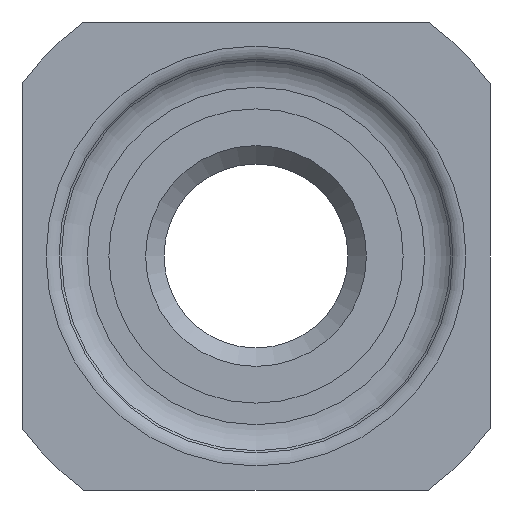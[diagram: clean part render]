
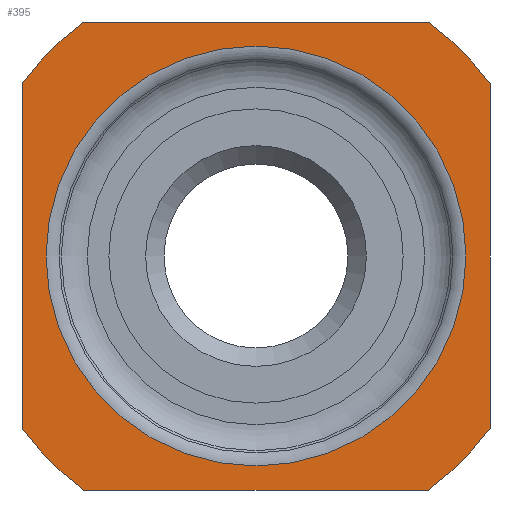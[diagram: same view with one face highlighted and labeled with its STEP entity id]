
A CAD part, front view. The second image highlights one B-rep face of the part: STEP entity #395.
In plain terms, the highlighted planar face has unit normal (0, -1, 0).
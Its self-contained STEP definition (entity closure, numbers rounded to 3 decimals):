
#28=FACE_BOUND('',#82,.T.);
#32=PLANE('',#462);
#54=FACE_OUTER_BOUND('',#81,.T.);
#81=EDGE_LOOP('',(#306,#307,#308,#309,#310,#311,#312,#313));
#82=EDGE_LOOP('',(#314));
#104=LINE('',#682,#122);
#105=LINE('',#686,#123);
#106=LINE('',#690,#124);
#107=LINE('',#693,#125);
#122=VECTOR('',#560,10.);
#123=VECTOR('',#563,10.);
#124=VECTOR('',#566,10.);
#125=VECTOR('',#569,10.);
#148=CIRCLE('',#456,5.707);
#153=CIRCLE('',#463,7.9);
#154=CIRCLE('',#464,7.9);
#155=CIRCLE('',#465,7.9);
#156=CIRCLE('',#466,7.9);
#179=VERTEX_POINT('',#666);
#183=VERTEX_POINT('',#678);
#184=VERTEX_POINT('',#679);
#185=VERTEX_POINT('',#681);
#186=VERTEX_POINT('',#683);
#187=VERTEX_POINT('',#685);
#188=VERTEX_POINT('',#687);
#189=VERTEX_POINT('',#689);
#190=VERTEX_POINT('',#691);
#222=EDGE_CURVE('',#179,#179,#148,.T.);
#228=EDGE_CURVE('',#183,#184,#153,.T.);
#229=EDGE_CURVE('',#184,#185,#104,.T.);
#230=EDGE_CURVE('',#185,#186,#154,.T.);
#231=EDGE_CURVE('',#186,#187,#105,.T.);
#232=EDGE_CURVE('',#187,#188,#155,.T.);
#233=EDGE_CURVE('',#188,#189,#106,.T.);
#234=EDGE_CURVE('',#189,#190,#156,.T.);
#235=EDGE_CURVE('',#190,#183,#107,.T.);
#306=ORIENTED_EDGE('',*,*,#228,.T.);
#307=ORIENTED_EDGE('',*,*,#229,.T.);
#308=ORIENTED_EDGE('',*,*,#230,.T.);
#309=ORIENTED_EDGE('',*,*,#231,.T.);
#310=ORIENTED_EDGE('',*,*,#232,.T.);
#311=ORIENTED_EDGE('',*,*,#233,.T.);
#312=ORIENTED_EDGE('',*,*,#234,.T.);
#313=ORIENTED_EDGE('',*,*,#235,.T.);
#314=ORIENTED_EDGE('',*,*,#222,.F.);
#395=ADVANCED_FACE('',(#54,#28),#32,.T.);
#456=AXIS2_PLACEMENT_3D('',#667,#543,#544);
#462=AXIS2_PLACEMENT_3D('',#677,#556,#557);
#463=AXIS2_PLACEMENT_3D('',#680,#558,#559);
#464=AXIS2_PLACEMENT_3D('',#684,#561,#562);
#465=AXIS2_PLACEMENT_3D('',#688,#564,#565);
#466=AXIS2_PLACEMENT_3D('',#692,#567,#568);
#543=DIRECTION('center_axis',(0.,-1.,0.));
#544=DIRECTION('ref_axis',(0.,0.,-1.));
#556=DIRECTION('center_axis',(0.,-1.,0.));
#557=DIRECTION('ref_axis',(0.,0.,-1.));
#558=DIRECTION('center_axis',(0.,-1.,0.));
#559=DIRECTION('ref_axis',(0.,0.,1.));
#560=DIRECTION('',(0.,0.,-1.));
#561=DIRECTION('center_axis',(0.,-1.,0.));
#562=DIRECTION('ref_axis',(0.,0.,1.));
#563=DIRECTION('',(1.,0.,0.));
#564=DIRECTION('center_axis',(0.,-1.,0.));
#565=DIRECTION('ref_axis',(0.,0.,1.));
#566=DIRECTION('',(0.,0.,1.));
#567=DIRECTION('center_axis',(0.,-1.,0.));
#568=DIRECTION('ref_axis',(0.,0.,1.));
#569=DIRECTION('',(-1.,0.,0.));
#666=CARTESIAN_POINT('',(0.,-5.,-5.707));
#667=CARTESIAN_POINT('Origin',(0.,-5.,0.));
#677=CARTESIAN_POINT('Origin',(0.,-5.,0.));
#678=CARTESIAN_POINT('',(-4.686,-5.,6.36));
#679=CARTESIAN_POINT('',(-6.36,-5.,4.686));
#680=CARTESIAN_POINT('Origin',(0.,-5.,0.));
#681=CARTESIAN_POINT('',(-6.36,-5.,-4.686));
#682=CARTESIAN_POINT('',(-6.36,-5.,-6.36));
#683=CARTESIAN_POINT('',(-4.686,-5.,-6.36));
#684=CARTESIAN_POINT('Origin',(0.,-5.,0.));
#685=CARTESIAN_POINT('',(4.686,-5.,-6.36));
#686=CARTESIAN_POINT('',(6.36,-5.,-6.36));
#687=CARTESIAN_POINT('',(6.36,-5.,-4.686));
#688=CARTESIAN_POINT('Origin',(0.,-5.,0.));
#689=CARTESIAN_POINT('',(6.36,-5.,4.686));
#690=CARTESIAN_POINT('',(6.36,-5.,6.36));
#691=CARTESIAN_POINT('',(4.686,-5.,6.36));
#692=CARTESIAN_POINT('Origin',(0.,-5.,0.));
#693=CARTESIAN_POINT('',(-6.36,-5.,6.36));
